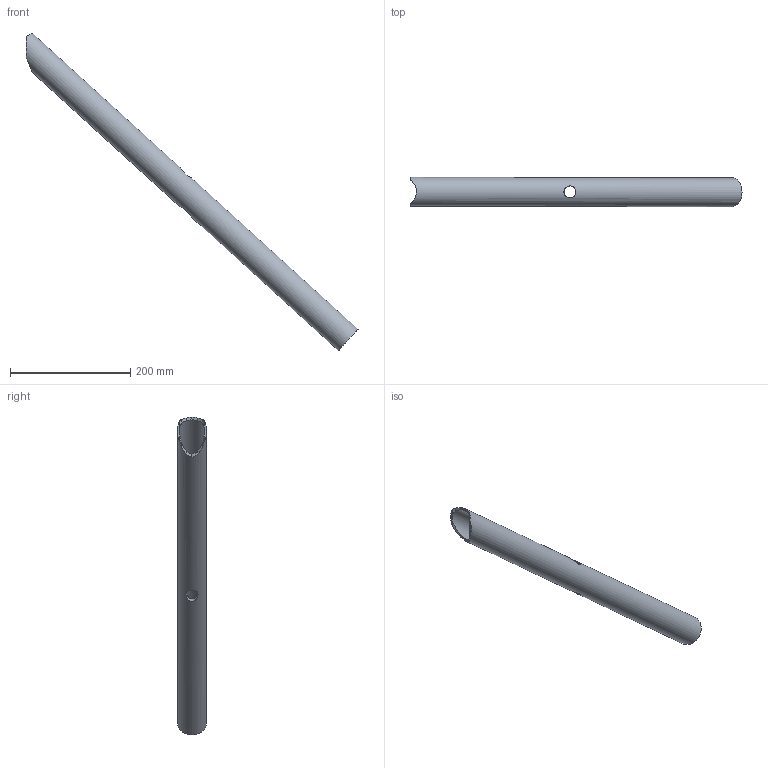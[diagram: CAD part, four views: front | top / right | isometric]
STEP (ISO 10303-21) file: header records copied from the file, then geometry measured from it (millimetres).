
FILE_DESCRIPTION(('Open CASCADE Model'),'2;1');
FILE_NAME('Open CASCADE Shape Model','2016-07-06T13:15:31',('Author'),( 'Open CASCADE'),'Open CASCADE STEP processor 6.8','Open CASCADE 6.8' ,'Unknown');
FILE_SCHEMA(('AUTOMOTIVE_DESIGN_CC2 { 1 2 10303 214 -1 1 5 4 }'));
Length unit declared in the file: millimetre
Products named in the file (1): Open CASCADE STEP translator 6.8 1
Bounding box: 552.33 x 48.3 x 527.93 mm (x, y, z)
Volume: 322589 mm3; surface area: 203361.1 mm2
Topology: 1 solids, 1 shells, 19 faces, 58 edges, 40 vertices
Faces by surface type: plane 15, cylinder 4
Full cylindrical faces by diameter (mm): 20 x2, 41.9 x1, 48.3 x1
Entity records: 2760 total; most frequent: CARTESIAN_POINT 1676, DIRECTION 180, ORIENTED_EDGE 116, PCURVE 116, DEFINITIONAL_REPRESENTATION 116, B_SPLINE_CURVE_WITH_KNOTS 64, ELLIPSE 60, EDGE_CURVE 58
